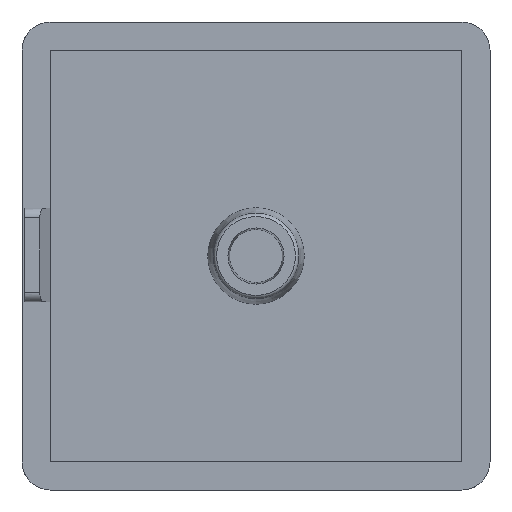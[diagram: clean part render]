
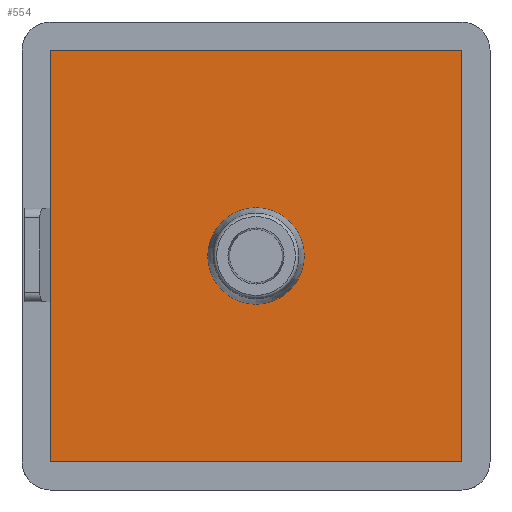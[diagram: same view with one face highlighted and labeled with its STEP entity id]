
A CAD part, front view. The second image highlights one B-rep face of the part: STEP entity #554.
In plain terms, the highlighted planar face has unit normal (0, -1, 0).
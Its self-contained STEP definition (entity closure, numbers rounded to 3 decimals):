
#45=CIRCLE('',#624,5.15);
#182=ORIENTED_EDGE('',*,*,#277,.F.);
#183=ORIENTED_EDGE('',*,*,#214,.F.);
#184=ORIENTED_EDGE('',*,*,#276,.F.);
#185=ORIENTED_EDGE('',*,*,#274,.F.);
#186=ORIENTED_EDGE('',*,*,#272,.F.);
#214=EDGE_CURVE('',#287,#288,#333,.T.);
#272=EDGE_CURVE('',#288,#321,#371,.T.);
#274=EDGE_CURVE('',#321,#322,#373,.T.);
#276=EDGE_CURVE('',#322,#287,#375,.T.);
#277=EDGE_CURVE('',#323,#323,#45,.T.);
#287=VERTEX_POINT('',#821);
#288=VERTEX_POINT('',#823);
#321=VERTEX_POINT('',#938);
#322=VERTEX_POINT('',#942);
#323=VERTEX_POINT('',#948);
#333=LINE('',#822,#380);
#371=LINE('',#937,#418);
#373=LINE('',#941,#420);
#375=LINE('',#945,#422);
#380=VECTOR('',#646,1000.);
#418=VECTOR('',#772,1000.);
#420=VECTOR('',#776,1000.);
#422=VECTOR('',#780,1000.);
#451=EDGE_LOOP('',(#182));
#452=EDGE_LOOP('',(#183,#184,#185,#186));
#494=FACE_BOUND('',#451,.T.);
#495=FACE_BOUND('',#452,.T.);
#522=PLANE('',#623);
#554=ADVANCED_FACE('',(#494,#495),#522,.F.);
#623=AXIS2_PLACEMENT_3D('',#946,#781,#782);
#624=AXIS2_PLACEMENT_3D('',#947,#783,#784);
#646=DIRECTION('',(0.,0.,1.));
#772=DIRECTION('',(1.,0.,0.));
#776=DIRECTION('',(0.,0.,-1.));
#780=DIRECTION('',(-1.,0.,0.));
#781=DIRECTION('',(0.,1.,0.));
#782=DIRECTION('',(0.,0.,1.));
#783=DIRECTION('',(0.,-1.,0.));
#784=DIRECTION('',(0.,0.,-1.));
#821=CARTESIAN_POINT('',(-22.,-3.,-22.));
#822=CARTESIAN_POINT('',(-22.,-3.,-22.));
#823=CARTESIAN_POINT('',(-22.,-3.,22.));
#937=CARTESIAN_POINT('',(-22.,-3.,22.));
#938=CARTESIAN_POINT('',(22.,-3.,22.));
#941=CARTESIAN_POINT('',(22.,-3.,22.));
#942=CARTESIAN_POINT('',(22.,-3.,-22.));
#945=CARTESIAN_POINT('',(22.,-3.,-22.));
#946=CARTESIAN_POINT('',(0.,-3.,0.));
#947=CARTESIAN_POINT('',(0.,-3.,0.));
#948=CARTESIAN_POINT('',(0.,-3.,-5.15));
